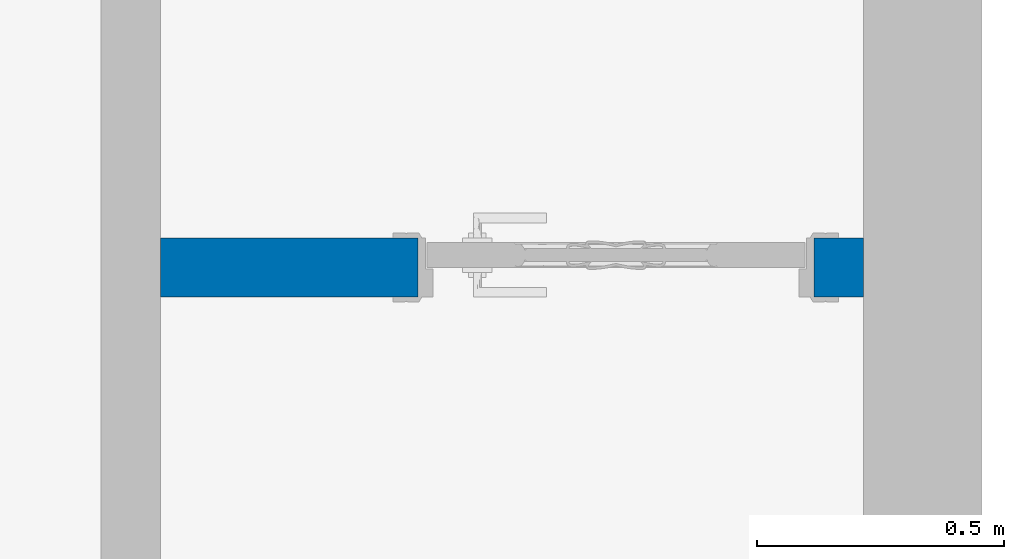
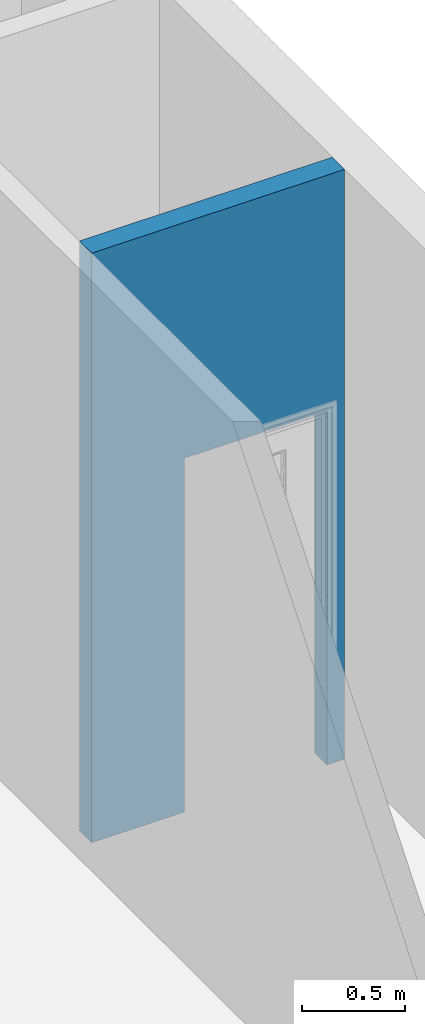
# One storey, part 20 of 24: 1 wall, 1 opening.
"""IFC2X3 building model written with IfcOpenShell, lengths in millimetres."""

from ifc_helpers import new_model, entity, si_unit, converted_unit, derived_unit, direction, frame, frame_2d, origin, place, context, subcontext, project, spatial, rectangle, extrude, material, layer, layer_set, layer_usage, type_object, element, save


model = new_model("IFC2X3")

# Units and contexts
model_context = context("Model", 3, precision=0.01, world=origin(), true_north=direction((6.12303176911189e-17, 1.0)))
body_context = subcontext(model_context, "Body", "Model", "MODEL_VIEW")
ifc_project = project(units=[si_unit("LENGTHUNIT", "METRE", prefix="MILLI"), si_unit("AREAUNIT", "SQUARE_METRE"), si_unit("VOLUMEUNIT", "CUBIC_METRE"), converted_unit("PLANEANGLEUNIT", "DEGREE", entity("IfcRatioMeasure", 0.0174532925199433), si_unit("PLANEANGLEUNIT", "RADIAN"), dimensions=[0, 0, 0, 0, 0, 0, 0]), si_unit("MASSUNIT", "GRAM", prefix="KILO"), derived_unit("MASSDENSITYUNIT", [(si_unit("MASSUNIT", "GRAM", prefix="KILO"), 1), (si_unit("LENGTHUNIT", "METRE"), -3)]), si_unit("TIMEUNIT", "SECOND"), si_unit("FREQUENCYUNIT", "HERTZ"), si_unit("THERMODYNAMICTEMPERATUREUNIT", "DEGREE_CELSIUS"), derived_unit("THERMALTRANSMITTANCEUNIT", [(si_unit("MASSUNIT", "GRAM", prefix="KILO"), 1), (si_unit("THERMODYNAMICTEMPERATUREUNIT", "KELVIN"), -1), (si_unit("TIMEUNIT", "SECOND"), -3)]), derived_unit("VOLUMETRICFLOWRATEUNIT", [(si_unit("LENGTHUNIT", "METRE"), 3), (si_unit("TIMEUNIT", "SECOND"), -1)]), si_unit("ELECTRICCURRENTUNIT", "AMPERE"), si_unit("ELECTRICVOLTAGEUNIT", "VOLT"), si_unit("POWERUNIT", "WATT"), si_unit("FORCEUNIT", "NEWTON", prefix="KILO"), si_unit("ILLUMINANCEUNIT", "LUX"), si_unit("LUMINOUSFLUXUNIT", "LUMEN"), si_unit("LUMINOUSINTENSITYUNIT", "CANDELA"), derived_unit("USERDEFINED", [(si_unit("MASSUNIT", "GRAM", prefix="KILO"), -1), (si_unit("LENGTHUNIT", "METRE"), -2), (si_unit("TIMEUNIT", "SECOND"), 3), (si_unit("LUMINOUSFLUXUNIT", "LUMEN"), 1)]), derived_unit("LINEARVELOCITYUNIT", [(si_unit("LENGTHUNIT", "METRE"), 1), (si_unit("TIMEUNIT", "SECOND"), -1)]), si_unit("PRESSUREUNIT", "PASCAL"), derived_unit("USERDEFINED", [(si_unit("LENGTHUNIT", "METRE"), -2), (si_unit("MASSUNIT", "GRAM", prefix="KILO"), 1), (si_unit("TIMEUNIT", "SECOND"), -2)])], contexts=[model_context])

# Site, building, storey
site_placement = place(None, origin())
site = spatial("IfcSite", under=ifc_project, at=site_placement, Name="表面", CompositionType="ELEMENT")
building_placement = place(site_placement, origin())
building = spatial("IfcBuilding", under=site, at=building_placement, CompositionType="ELEMENT")
storey_placement = place(building_placement, frame((0.0, 0.0, -3500.0)))
storey = spatial("IfcBuildingStorey", under=building, at=storey_placement, Name="-1F", CompositionType="ELEMENT", Elevation=-3500.0)

# Wall, opening
ifc_material_1 = material(Name="白色涂料")
ifc_layer_1 = layer(ifc_material_1, 10.0)
ifc_material_2 = material(Name="默认墙")
ifc_layer_2 = layer(ifc_material_2, 100.0)
ifc_layer_3 = layer(ifc_material_1, 10.0)
ifc_layer_set = layer_set([ifc_layer_1, ifc_layer_2, ifc_layer_3], Name="基本墙:粉刷墙120")
ifc_layer_usage = layer_usage(ifc_layer_set, "AXIS2", "NEGATIVE", 60.0)
wall_type = type_object("IfcWallType", Name="基本墙:粉刷墙120", PredefinedType="STANDARD", material=ifc_layer_set)
wall_placement = place(storey_placement, frame((9229.75008735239, -2707.84591297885, 0.0)))
wall = element("IfcWallStandardCase", 1, at=wall_placement, inside=storey, type_object=wall_type, material=ifc_layer_usage, Name="基本墙:粉刷墙120", ObjectType="基本墙:粉刷墙120", context=body_context, shape_type="SweptSolid", body=[
    extrude(rectangle(XDim=1420.0, YDim=120.0, at=frame_2d((710.0, -1.52766688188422e-13), x_axis=(-1.0, 0.0))), origin(), (0.0, 0.0, 1.0), 3500.0),
])
opening_placement = place(wall_placement, frame((520.0, -60.0, 0.0)))
element("IfcOpeningElement", 2, at=opening_placement, cuts=wall, Name="装饰木门:M0821:1", ObjectType="Opening", context=body_context, shape_type="SweptSolid", body=[
    extrude(rectangle(XDim=2099.99999999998, YDim=800.0, at=frame_2d((1049.99999999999, 400.0), x_axis=(1.0, 0.0))), frame((0.0, 0.0, 0.0), z_axis=(0.0, 1.0, 0.0), x_axis=(0.0, 0.0, 1.0)), (0.0, 0.0, 1.0), 120.0),
])

save(model, "model.ifc")
